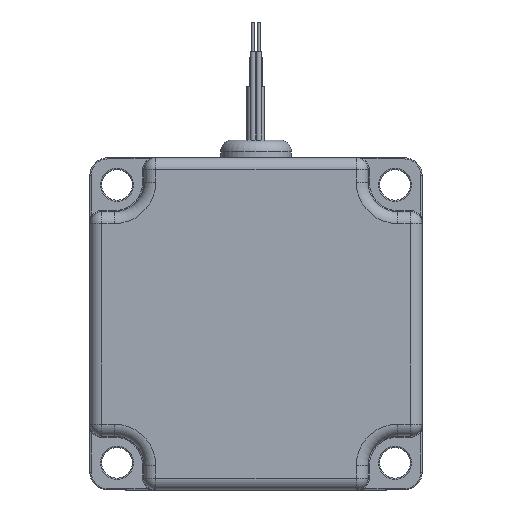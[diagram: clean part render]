
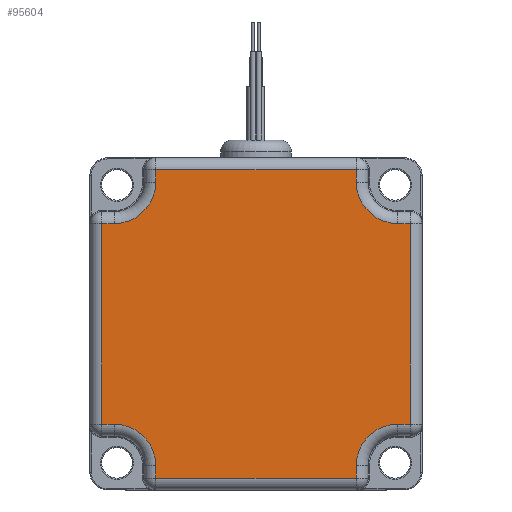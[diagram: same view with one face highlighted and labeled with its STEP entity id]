
A CAD part, front view. The second image highlights one B-rep face of the part: STEP entity #95604.
In plain terms, the highlighted planar face has unit normal (0, -1, 0).
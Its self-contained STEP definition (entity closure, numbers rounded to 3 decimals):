
#547 = LINE ( 'NONE', #56539, #110063 ) ;
#551 = CARTESIAN_POINT ( 'NONE',  ( -28.15, -40., 17. ) ) ;
#3183 = EDGE_CURVE ( 'NONE', #98093, #161586, #99523, .T. ) ;
#3700 = ORIENTED_EDGE ( 'NONE', *, *, #164184, .T. ) ;
#3985 = CARTESIAN_POINT ( 'NONE',  ( 17., -40., 0. ) ) ;
#4979 = ORIENTED_EDGE ( 'NONE', *, *, #148578, .T. ) ;
#8287 = VERTEX_POINT ( 'NONE', #164705 ) ;
#9151 = CARTESIAN_POINT ( 'NONE',  ( 19., -40., -26.15 ) ) ;
#10740 = LINE ( 'NONE', #66832, #175787 ) ;
#11581 = DIRECTION ( 'NONE',  ( -1., 0., 0. ) ) ;
#12844 = VECTOR ( 'NONE', #87530, 1000. ) ;
#13298 = ORIENTED_EDGE ( 'NONE', *, *, #94692, .T. ) ;
#13646 = LINE ( 'NONE', #40252, #43281 ) ;
#15201 = DIRECTION ( 'NONE',  ( 0., 0., -1. ) ) ;
#16652 = CIRCLE ( 'NONE', #89867, 7. ) ;
#22363 = EDGE_CURVE ( 'NONE', #75158, #168234, #171305, .T. ) ;
#22729 = EDGE_CURVE ( 'NONE', #29611, #36967, #79801, .T. ) ;
#23055 = ORIENTED_EDGE ( 'NONE', *, *, #102699, .T. ) ;
#24397 = DIRECTION ( 'NONE',  ( 0., 0., -1. ) ) ;
#26959 = VECTOR ( 'NONE', #159187, 1000. ) ;
#27019 = VERTEX_POINT ( 'NONE', #53101 ) ;
#29611 = VERTEX_POINT ( 'NONE', #166453 ) ;
#29725 = EDGE_LOOP ( 'NONE', ( #32879, #13298, #129771, #93104, #178087, #40873, #181753, #3700, #62726, #68504, #4979, #23055, #47419, #88090, #107172, #39316 ) ) ;
#31092 = FACE_OUTER_BOUND ( 'NONE', #29725, .T. ) ;
#32061 = DIRECTION ( 'NONE',  ( 0., 0., -1. ) ) ;
#32879 = ORIENTED_EDGE ( 'NONE', *, *, #138167, .T. ) ;
#32932 = EDGE_CURVE ( 'NONE', #27019, #50018, #166481, .T. ) ;
#36967 = VERTEX_POINT ( 'NONE', #64091 ) ;
#37668 = AXIS2_PLACEMENT_3D ( 'NONE', #59443, #173394, #115565 ) ;
#38494 = VERTEX_POINT ( 'NONE', #84446 ) ;
#39316 = ORIENTED_EDGE ( 'NONE', *, *, #58287, .T. ) ;
#39651 = VECTOR ( 'NONE', #174993, 1000. ) ;
#40252 = CARTESIAN_POINT ( 'NONE',  ( 26.15, -40., 0. ) ) ;
#40873 = ORIENTED_EDGE ( 'NONE', *, *, #121540, .T. ) ;
#41683 = VERTEX_POINT ( 'NONE', #139974 ) ;
#42165 = EDGE_CURVE ( 'NONE', #38494, #130181, #168661, .T. ) ;
#42585 = CARTESIAN_POINT ( 'NONE',  ( -26.15, -40., 17. ) ) ;
#43281 = VECTOR ( 'NONE', #125765, 1000. ) ;
#43530 = CIRCLE ( 'NONE', #37668, 7. ) ;
#44971 = DIRECTION ( 'NONE',  ( 0., 0., -1. ) ) ;
#45790 = DIRECTION ( 'NONE',  ( 0., 1., 0. ) ) ;
#46093 = LINE ( 'NONE', #169358, #137995 ) ;
#47419 = ORIENTED_EDGE ( 'NONE', *, *, #42165, .T. ) ;
#48482 = DIRECTION ( 'NONE',  ( 0., 0., -1. ) ) ;
#49406 = DIRECTION ( 'NONE',  ( 0., -1., 0. ) ) ;
#50018 = VERTEX_POINT ( 'NONE', #175496 ) ;
#50502 = CARTESIAN_POINT ( 'NONE',  ( 24., -40., 17. ) ) ;
#53101 = CARTESIAN_POINT ( 'NONE',  ( -26.15, -40., -17. ) ) ;
#56539 = CARTESIAN_POINT ( 'NONE',  ( -17., -40., -28.15 ) ) ;
#58287 = EDGE_CURVE ( 'NONE', #50018, #8287, #125200, .T. ) ;
#59443 = CARTESIAN_POINT ( 'NONE',  ( -24., -40., 24. ) ) ;
#62726 = ORIENTED_EDGE ( 'NONE', *, *, #167094, .T. ) ;
#63479 = CARTESIAN_POINT ( 'NONE',  ( -17., -40., -26.15 ) ) ;
#64091 = CARTESIAN_POINT ( 'NONE',  ( -17., -40., 26.15 ) ) ;
#65786 = CARTESIAN_POINT ( 'NONE',  ( 26.15, -40., 17. ) ) ;
#66832 = CARTESIAN_POINT ( 'NONE',  ( -17., -40., 0. ) ) ;
#68475 = EDGE_CURVE ( 'NONE', #130181, #27019, #105108, .T. ) ;
#68504 = ORIENTED_EDGE ( 'NONE', *, *, #22729, .T. ) ;
#69262 = CARTESIAN_POINT ( 'NONE',  ( 17., -40., -26.15 ) ) ;
#71912 = VERTEX_POINT ( 'NONE', #110451 ) ;
#75158 = VERTEX_POINT ( 'NONE', #65786 ) ;
#77784 = AXIS2_PLACEMENT_3D ( 'NONE', #94196, #150327, #24397 ) ;
#78074 = LINE ( 'NONE', #9151, #174103 ) ;
#78292 = CARTESIAN_POINT ( 'NONE',  ( 28.15, -40., -17. ) ) ;
#79801 = LINE ( 'NONE', #118530, #108635 ) ;
#84446 = CARTESIAN_POINT ( 'NONE',  ( -24., -40., 17. ) ) ;
#87530 = DIRECTION ( 'NONE',  ( 0., 0., 1. ) ) ;
#88090 = ORIENTED_EDGE ( 'NONE', *, *, #68475, .T. ) ;
#89867 = AXIS2_PLACEMENT_3D ( 'NONE', #114937, #170942, #44971 ) ;
#90089 = EDGE_CURVE ( 'NONE', #161586, #41683, #16652, .T. ) ;
#92827 = AXIS2_PLACEMENT_3D ( 'NONE', #163580, #45790, #32061 ) ;
#92987 = DIRECTION ( 'NONE',  ( 1., 0., 0. ) ) ;
#93104 = ORIENTED_EDGE ( 'NONE', *, *, #90089, .T. ) ;
#94196 = CARTESIAN_POINT ( 'NONE',  ( 24., -40., 24. ) ) ;
#94692 = EDGE_CURVE ( 'NONE', #148228, #98093, #78074, .T. ) ;
#95604 = ADVANCED_FACE ( 'NONE', ( #31092 ), #156996, .T. ) ;
#98093 = VERTEX_POINT ( 'NONE', #69262 ) ;
#99523 = LINE ( 'NONE', #3985, #12844 ) ;
#102699 = EDGE_CURVE ( 'NONE', #145928, #38494, #43530, .T. ) ;
#103297 = CARTESIAN_POINT ( 'NONE',  ( 17., -40., 24. ) ) ;
#104627 = VERTEX_POINT ( 'NONE', #103297 ) ;
#105108 = LINE ( 'NONE', #135501, #39651 ) ;
#107172 = ORIENTED_EDGE ( 'NONE', *, *, #32932, .T. ) ;
#108169 = CARTESIAN_POINT ( 'NONE',  ( 17., -40., -24. ) ) ;
#108372 = VECTOR ( 'NONE', #111678, 1000. ) ;
#108474 = VECTOR ( 'NONE', #92987, 1000. ) ;
#108635 = VECTOR ( 'NONE', #121240, 1000. ) ;
#110063 = VECTOR ( 'NONE', #15201, 1000. ) ;
#110451 = CARTESIAN_POINT ( 'NONE',  ( 26.15, -40., -17. ) ) ;
#111678 = DIRECTION ( 'NONE',  ( -1., 0., 0. ) ) ;
#114937 = CARTESIAN_POINT ( 'NONE',  ( 24., -40., -24. ) ) ;
#115163 = DIRECTION ( 'NONE',  ( 0., 0., 1. ) ) ;
#115565 = DIRECTION ( 'NONE',  ( 0., 0., -1. ) ) ;
#116784 = DIRECTION ( 'NONE',  ( 1., 0., 0. ) ) ;
#118530 = CARTESIAN_POINT ( 'NONE',  ( 0., -40., 26.15 ) ) ;
#121240 = DIRECTION ( 'NONE',  ( -1., 0., 0. ) ) ;
#121540 = EDGE_CURVE ( 'NONE', #71912, #75158, #13646, .T. ) ;
#125200 = CIRCLE ( 'NONE', #92827, 7. ) ;
#125765 = DIRECTION ( 'NONE',  ( 0., 0., 1. ) ) ;
#129771 = ORIENTED_EDGE ( 'NONE', *, *, #3183, .T. ) ;
#129908 = AXIS2_PLACEMENT_3D ( 'NONE', #157884, #49406, #48482 ) ;
#130181 = VERTEX_POINT ( 'NONE', #42585 ) ;
#132571 = LINE ( 'NONE', #78292, #26959 ) ;
#135501 = CARTESIAN_POINT ( 'NONE',  ( -26.15, -40., -19. ) ) ;
#137995 = VECTOR ( 'NONE', #115163, 1000. ) ;
#138167 = EDGE_CURVE ( 'NONE', #8287, #148228, #547, .T. ) ;
#138960 = CARTESIAN_POINT ( 'NONE',  ( 0., -40., -17. ) ) ;
#139375 = DIRECTION ( 'NONE',  ( 0., 0., -1. ) ) ;
#139974 = CARTESIAN_POINT ( 'NONE',  ( 24., -40., -17. ) ) ;
#141068 = CARTESIAN_POINT ( 'NONE',  ( 0., -40., 17. ) ) ;
#145928 = VERTEX_POINT ( 'NONE', #172828 ) ;
#148228 = VERTEX_POINT ( 'NONE', #63479 ) ;
#148578 = EDGE_CURVE ( 'NONE', #36967, #145928, #10740, .T. ) ;
#150327 = DIRECTION ( 'NONE',  ( 0., 1., 0. ) ) ;
#156996 = PLANE ( 'NONE',  #129908 ) ;
#157010 = CIRCLE ( 'NONE', #77784, 7. ) ;
#157884 = CARTESIAN_POINT ( 'NONE',  ( 0., -40., 0. ) ) ;
#159187 = DIRECTION ( 'NONE',  ( 1., 0., 0. ) ) ;
#161586 = VERTEX_POINT ( 'NONE', #108169 ) ;
#163580 = CARTESIAN_POINT ( 'NONE',  ( -24., -40., -24. ) ) ;
#164184 = EDGE_CURVE ( 'NONE', #168234, #104627, #157010, .T. ) ;
#164705 = CARTESIAN_POINT ( 'NONE',  ( -17., -40., -24. ) ) ;
#166453 = CARTESIAN_POINT ( 'NONE',  ( 17., -40., 26.15 ) ) ;
#166481 = LINE ( 'NONE', #138960, #108474 ) ;
#167094 = EDGE_CURVE ( 'NONE', #104627, #29611, #46093, .T. ) ;
#168035 = EDGE_CURVE ( 'NONE', #41683, #71912, #132571, .T. ) ;
#168234 = VERTEX_POINT ( 'NONE', #50502 ) ;
#168661 = LINE ( 'NONE', #551, #171095 ) ;
#169358 = CARTESIAN_POINT ( 'NONE',  ( 17., -40., 28.15 ) ) ;
#170942 = DIRECTION ( 'NONE',  ( 0., 1., 0. ) ) ;
#171095 = VECTOR ( 'NONE', #11581, 1000. ) ;
#171305 = LINE ( 'NONE', #141068, #108372 ) ;
#172828 = CARTESIAN_POINT ( 'NONE',  ( -17., -40., 24. ) ) ;
#173394 = DIRECTION ( 'NONE',  ( 0., 1., 0. ) ) ;
#174103 = VECTOR ( 'NONE', #116784, 1000. ) ;
#174993 = DIRECTION ( 'NONE',  ( 0., 0., -1. ) ) ;
#175496 = CARTESIAN_POINT ( 'NONE',  ( -24., -40., -17. ) ) ;
#175787 = VECTOR ( 'NONE', #139375, 1000. ) ;
#178087 = ORIENTED_EDGE ( 'NONE', *, *, #168035, .T. ) ;
#181753 = ORIENTED_EDGE ( 'NONE', *, *, #22363, .T. ) ;
